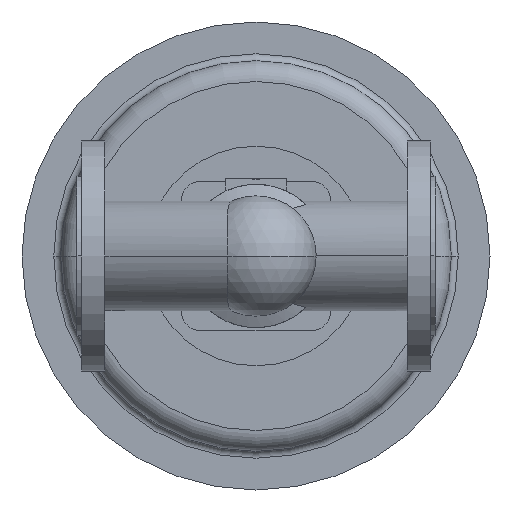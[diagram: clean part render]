
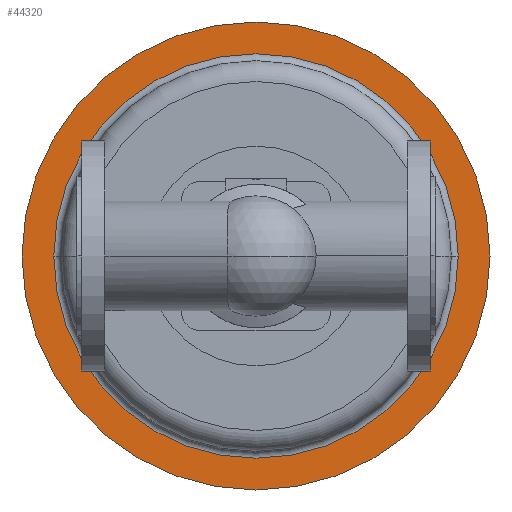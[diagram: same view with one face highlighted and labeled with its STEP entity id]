
A CAD part, front view. The second image highlights one B-rep face of the part: STEP entity #44320.
In plain terms, the highlighted planar face has unit normal (0, -1, 0).
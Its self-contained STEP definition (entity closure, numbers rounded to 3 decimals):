
#38150=CARTESIAN_POINT('',(-47.5,557.5,0.));
#38160=VERTEX_POINT('',#38150);
#38320=CARTESIAN_POINT('',(357.5,557.5,0.));
#38330=VERTEX_POINT('',#38320);
#38360=CARTESIAN_POINT('',(155.,557.5,0.));
#38370=DIRECTION('',(0.,1.,0.));
#38380=DIRECTION('',(1.,0.,0.));
#38390=AXIS2_PLACEMENT_3D('',#38360,#38370,#38380);
#38400=CIRCLE('',#38390,202.5);
#38410=EDGE_CURVE('',#38160,#38330,#38400,.T.);
#38510=CARTESIAN_POINT('',(155.,557.5,0.));
#38520=DIRECTION('',(0.,1.,0.));
#38530=DIRECTION('',(1.,0.,0.));
#38540=AXIS2_PLACEMENT_3D('',#38510,#38520,#38530);
#38550=CIRCLE('',#38540,175.);
#38560=CARTESIAN_POINT('',(155.,557.5,175.));
#38570=VERTEX_POINT('',#38560);
#38580=CARTESIAN_POINT('',(330.,557.5,0.));
#38590=VERTEX_POINT('',#38580);
#38600=EDGE_CURVE('',#38570,#38590,#38550,.T.);
#38850=CARTESIAN_POINT('',(-20.,557.5,0.));
#38860=VERTEX_POINT('',#38850);
#38890=EDGE_CURVE('',#38860,#38570,#38550,.T.);
#44160=CARTESIAN_POINT('',(343.75,557.5,0.));
#44170=DIRECTION('',(0.,-1.,0.));
#44180=DIRECTION('',(-1.,0.,0.));
#44190=AXIS2_PLACEMENT_3D('',#44160,#44170,#44180);
#44200=PLANE('',#44190);
#44210=EDGE_CURVE('',#38330,#38160,#38400,.T.);
#44220=ORIENTED_EDGE('',*,*,#44210,.F.);
#44230=ORIENTED_EDGE('',*,*,#38410,.F.);
#44240=EDGE_LOOP('',(#44230,#44220));
#44250=FACE_OUTER_BOUND('',#44240,.T.);
#44260=EDGE_CURVE('',#38590,#38860,#38550,.T.);
#44270=ORIENTED_EDGE('',*,*,#44260,.T.);
#44280=ORIENTED_EDGE('',*,*,#38600,.T.);
#44290=ORIENTED_EDGE('',*,*,#38890,.T.);
#44300=EDGE_LOOP('',(#44290,#44280,#44270));
#44310=FACE_BOUND('',#44300,.T.);
#44320=ADVANCED_FACE('',(#44250,#44310),#44200,.T.);
